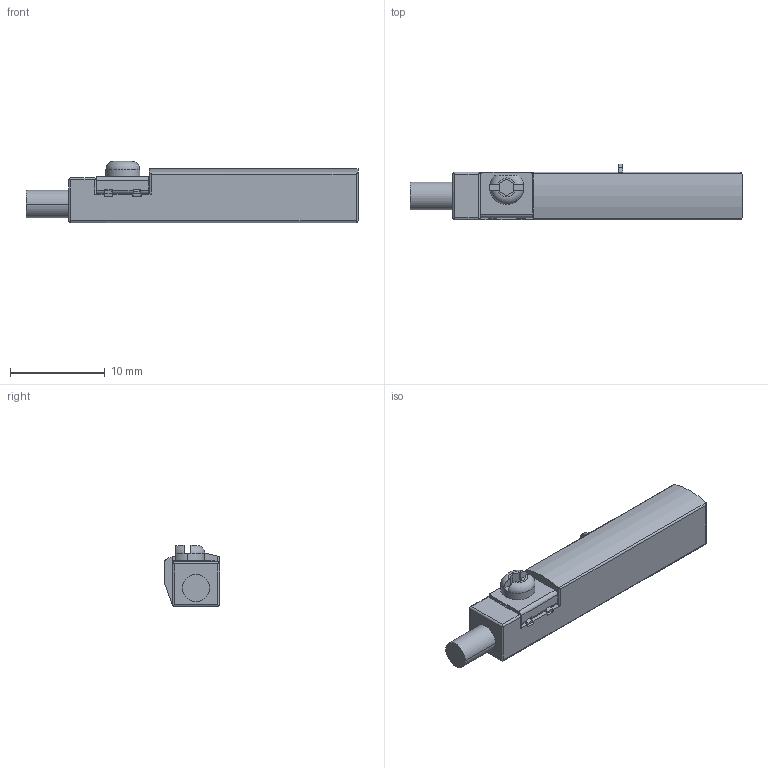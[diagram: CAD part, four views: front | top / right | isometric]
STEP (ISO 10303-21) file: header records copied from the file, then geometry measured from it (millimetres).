
FILE_DESCRIPTION( ( '' ), '1' );
FILE_NAME( '//expscmdclustefs.cadenas.external/client_exchange/iodir/jobs/output/wkb39659967_no0/STEP/mr0102_2_03_56fa68aab0d912ba39a93ed9979b71de.stp', '2011-12-01T08:30:53', ( '' ), ( '' ), ' ', ' ', ' ' );
FILE_SCHEMA( ( 'CONFIG_CONTROL_DESIGN' ) );
Length unit declared in the file: millimetre
Products named in the file (1): 1
Bounding box: 35 x 5.85 x 6.44 mm (x, y, z)
Volume: 831.5 mm3; surface area: 834.2 mm2
Topology: 1 solids, 4 shells, 190 faces, 539 edges, 352 vertices
Faces by surface type: plane 122, cylinder 66, torus 2
Entity records: 6332 total; most frequent: CARTESIAN_POINT 1217, ORIENTED_EDGE 1078, DIRECTION 1061, EDGE_CURVE 539, LINE 383, VECTOR 383, VERTEX_POINT 352, AXIS2_PLACEMENT_3D 339
